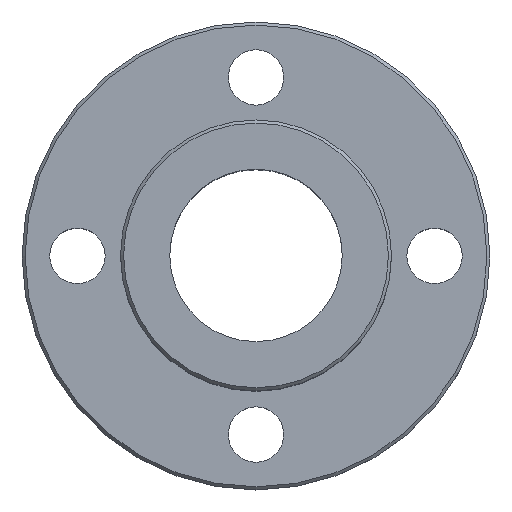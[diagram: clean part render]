
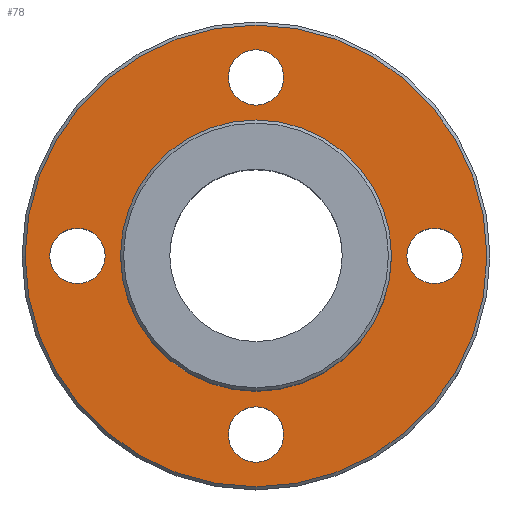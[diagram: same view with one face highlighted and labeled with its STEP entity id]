
A CAD part, top view. The second image highlights one B-rep face of the part: STEP entity #78.
In plain terms, the highlighted planar face has unit normal (0, 0, 1).
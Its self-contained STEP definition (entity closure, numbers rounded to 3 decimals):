
#78=ADVANCED_FACE('',(#102,#103,#104,#105,#106,#107),#108,.T.);
#102=FACE_BOUND('',#149,.T.);
#103=FACE_BOUND('',#150,.T.);
#104=FACE_OUTER_BOUND('',#151,.T.);
#105=FACE_BOUND('',#152,.T.);
#106=FACE_BOUND('',#153,.T.);
#107=FACE_BOUND('',#154,.T.);
#108=PLANE('',#155);
#149=EDGE_LOOP('',(#202));
#150=EDGE_LOOP('',(#203));
#151=EDGE_LOOP('',(#204));
#152=EDGE_LOOP('',(#205));
#153=EDGE_LOOP('',(#206));
#154=EDGE_LOOP('',(#207));
#155=AXIS2_PLACEMENT_3D('',#208,#209,#210);
#202=ORIENTED_EDGE('',*,*,#258,.T.);
#203=ORIENTED_EDGE('',*,*,#264,.T.);
#204=ORIENTED_EDGE('',*,*,#265,.T.);
#205=ORIENTED_EDGE('',*,*,#266,.T.);
#206=ORIENTED_EDGE('',*,*,#267,.T.);
#207=ORIENTED_EDGE('',*,*,#256,.T.);
#208=CARTESIAN_POINT('',(0.0,0.0,8.0));
#209=DIRECTION('',(0.0,0.0,1.0));
#210=DIRECTION('',(1.0,0.0,0.0));
#256=EDGE_CURVE('',#273,#273,#274,.F.);
#258=EDGE_CURVE('',#277,#277,#278,.F.);
#264=EDGE_CURVE('',#289,#289,#290,.F.);
#265=EDGE_CURVE('',#291,#291,#292,.T.);
#266=EDGE_CURVE('',#293,#293,#294,.F.);
#267=EDGE_CURVE('',#295,#295,#296,.F.);
#273=VERTEX_POINT('',#307);
#274=CIRCLE('',#308,4.5);
#277=VERTEX_POINT('',#311);
#278=CIRCLE('',#312,4.5);
#289=VERTEX_POINT('',#323);
#290=CIRCLE('',#324,4.5);
#291=VERTEX_POINT('',#325);
#292=CIRCLE('',#326,37.5);
#293=VERTEX_POINT('',#327);
#294=CIRCLE('',#328,22.0);
#295=VERTEX_POINT('',#329);
#296=CIRCLE('',#330,4.5);
#307=CARTESIAN_POINT('',(4.5,-29.0,8.0));
#308=AXIS2_PLACEMENT_3D('',#341,#342,#343);
#311=CARTESIAN_POINT('',(-24.5,0.,8.0));
#312=AXIS2_PLACEMENT_3D('',#347,#348,#349);
#323=CARTESIAN_POINT('',(33.5,0.,8.0));
#324=AXIS2_PLACEMENT_3D('',#365,#366,#367);
#325=CARTESIAN_POINT('',(37.5,0.0,8.0));
#326=AXIS2_PLACEMENT_3D('',#368,#369,#370);
#327=CARTESIAN_POINT('',(22.0,0.,8.0));
#328=AXIS2_PLACEMENT_3D('',#371,#372,#373);
#329=CARTESIAN_POINT('',(4.5,29.0,8.0));
#330=AXIS2_PLACEMENT_3D('',#374,#375,#376);
#341=CARTESIAN_POINT('',(0.,-29.0,8.0));
#342=DIRECTION('',(0.0,0.0,1.0));
#343=DIRECTION('',(1.0,0.0,0.0));
#347=CARTESIAN_POINT('',(-29.0,0.,8.0));
#348=DIRECTION('',(0.0,0.0,1.0));
#349=DIRECTION('',(1.0,0.0,0.0));
#365=CARTESIAN_POINT('',(29.0,0.0,8.0));
#366=DIRECTION('',(0.0,0.0,1.0));
#367=DIRECTION('',(1.0,0.0,0.0));
#368=CARTESIAN_POINT('',(0.0,0.0,8.0));
#369=DIRECTION('',(0.0,0.0,1.0));
#370=DIRECTION('',(1.0,0.0,0.0));
#371=CARTESIAN_POINT('',(0.,0.0,8.0));
#372=DIRECTION('',(0.0,0.0,1.0));
#373=DIRECTION('',(1.0,0.0,0.0));
#374=CARTESIAN_POINT('',(0.,29.0,8.0));
#375=DIRECTION('',(0.0,0.0,1.0));
#376=DIRECTION('',(1.0,0.0,0.0));
